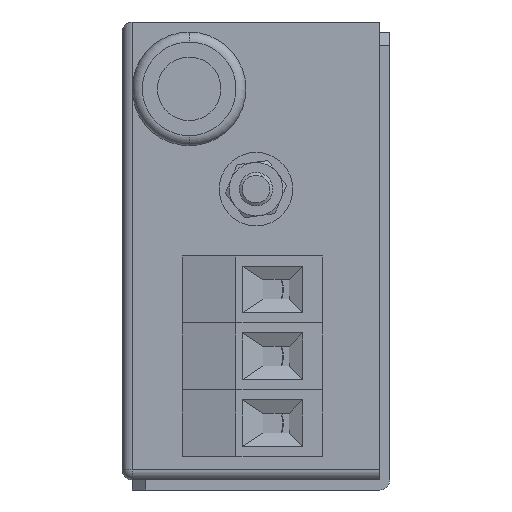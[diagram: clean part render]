
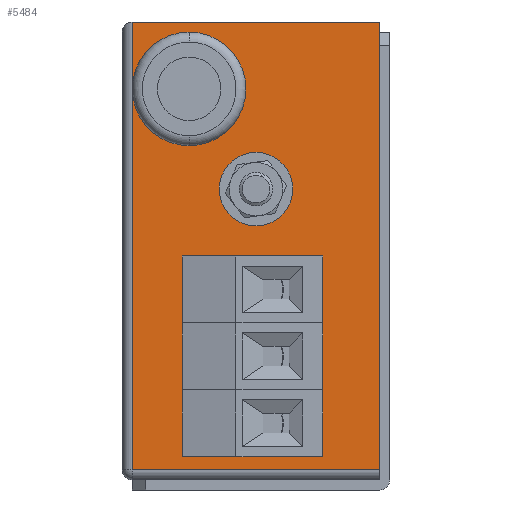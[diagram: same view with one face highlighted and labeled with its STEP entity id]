
A CAD part, left-side view. The second image highlights one B-rep face of the part: STEP entity #5484.
In plain terms, the highlighted planar face has unit normal (-1, 0, 0).
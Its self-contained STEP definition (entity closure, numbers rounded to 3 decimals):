
#70 = DIRECTION ( 'NONE',  ( 0., 0., 1. ) ) ;
#102 = DIRECTION ( 'NONE',  ( -1., 0., 0. ) ) ;
#148 = EDGE_LOOP ( 'NONE', ( #2461, #2319, #1413, #2735, #8396 ) ) ;
#200 = EDGE_LOOP ( 'NONE', ( #8491, #8695 ) ) ;
#344 = DIRECTION ( 'NONE',  ( -1., 0., 0. ) ) ;
#547 = CARTESIAN_POINT ( 'NONE',  ( 23., 30., -2.25 ) ) ;
#578 = DIRECTION ( 'NONE',  ( 0., 0., 1. ) ) ;
#613 = CARTESIAN_POINT ( 'NONE',  ( 23., 20., -34.4 ) ) ;
#662 = FACE_BOUND ( 'NONE', #5867, .T. ) ;
#737 = EDGE_CURVE ( 'NONE', #7203, #7598, #4684, .T. ) ;
#761 = VERTEX_POINT ( 'NONE', #3679 ) ;
#802 = AXIS2_PLACEMENT_3D ( 'NONE', #9300, #344, #2537 ) ;
#820 = CIRCLE ( 'NONE', #4451, 2.5 ) ;
#866 = CARTESIAN_POINT ( 'NONE',  ( 23., 30., -8.5 ) ) ;
#898 = EDGE_CURVE ( 'NONE', #8376, #4473, #7753, .T. ) ;
#992 = FACE_BOUND ( 'NONE', #7151, .T. ) ;
#1083 = CIRCLE ( 'NONE', #5175, 4.1 ) ;
#1119 = CIRCLE ( 'NONE', #3046, 4.1 ) ;
#1309 = DIRECTION ( 'NONE',  ( 0., 0., 1. ) ) ;
#1402 = DIRECTION ( 'NONE',  ( 0., 0., 1. ) ) ;
#1413 = ORIENTED_EDGE ( 'NONE', *, *, #3778, .T. ) ;
#1491 = VERTEX_POINT ( 'NONE', #2798 ) ;
#1499 = DIRECTION ( 'NONE',  ( -1., 0., 0. ) ) ;
#1611 = LINE ( 'NONE', #1956, #8524 ) ;
#1681 = DIRECTION ( 'NONE',  ( 0., 0., 1. ) ) ;
#1888 = ORIENTED_EDGE ( 'NONE', *, *, #3693, .F. ) ;
#1908 = CARTESIAN_POINT ( 'NONE',  ( 23., 30., -14.75 ) ) ;
#1956 = CARTESIAN_POINT ( 'NONE',  ( 23., 40., -65.5 ) ) ;
#2144 = VECTOR ( 'NONE', #5631, 1000. ) ;
#2148 = AXIS2_PLACEMENT_3D ( 'NONE', #8843, #5747, #578 ) ;
#2200 = VECTOR ( 'NONE', #70, 1000. ) ;
#2319 = ORIENTED_EDGE ( 'NONE', *, *, #7357, .T. ) ;
#2414 = VERTEX_POINT ( 'NONE', #613 ) ;
#2452 = AXIS2_PLACEMENT_3D ( 'NONE', #4355, #5186, #6647 ) ;
#2461 = ORIENTED_EDGE ( 'NONE', *, *, #8888, .F. ) ;
#2537 = DIRECTION ( 'NONE',  ( 0., 0., 1. ) ) ;
#2539 = CARTESIAN_POINT ( 'NONE',  ( 23., 40., 1.5 ) ) ;
#2565 = CARTESIAN_POINT ( 'NONE',  ( 23., 20., -54.4 ) ) ;
#2569 = VERTEX_POINT ( 'NONE', #1908 ) ;
#2735 = ORIENTED_EDGE ( 'NONE', *, *, #3458, .T. ) ;
#2762 = EDGE_CURVE ( 'NONE', #7598, #7203, #1083, .T. ) ;
#2766 = CIRCLE ( 'NONE', #802, 2.5 ) ;
#2798 = CARTESIAN_POINT ( 'NONE',  ( 23., 1.5, -65.5 ) ) ;
#2997 = DIRECTION ( 'NONE',  ( 0., 0., 1. ) ) ;
#3046 = AXIS2_PLACEMENT_3D ( 'NONE', #6649, #8942, #2997 ) ;
#3452 = CARTESIAN_POINT ( 'NONE',  ( 23., 40., 1.5 ) ) ;
#3458 = EDGE_CURVE ( 'NONE', #1491, #8376, #6068, .T. ) ;
#3611 = DIRECTION ( 'NONE',  ( -1., 0., 0. ) ) ;
#3654 = CARTESIAN_POINT ( 'NONE',  ( 23., 20., -38.5 ) ) ;
#3679 = CARTESIAN_POINT ( 'NONE',  ( 23., 20., -21. ) ) ;
#3693 = EDGE_CURVE ( 'NONE', #4223, #761, #2766, .T. ) ;
#3778 = EDGE_CURVE ( 'NONE', #4033, #1491, #1611, .T. ) ;
#3779 = CARTESIAN_POINT ( 'NONE',  ( 23., 38.5, 1.5 ) ) ;
#3831 = CARTESIAN_POINT ( 'NONE',  ( 23., 38.5, 1.5 ) ) ;
#3912 = EDGE_CURVE ( 'NONE', #2414, #4838, #6659, .T. ) ;
#4033 = VERTEX_POINT ( 'NONE', #8191 ) ;
#4085 = VERTEX_POINT ( 'NONE', #3831 ) ;
#4135 = CIRCLE ( 'NONE', #4439, 6.25 ) ;
#4223 = VERTEX_POINT ( 'NONE', #8610 ) ;
#4302 = VERTEX_POINT ( 'NONE', #2565 ) ;
#4320 = CARTESIAN_POINT ( 'NONE',  ( 23., 1.5, 1.5 ) ) ;
#4355 = CARTESIAN_POINT ( 'NONE',  ( 23., 20., -48.5 ) ) ;
#4398 = AXIS2_PLACEMENT_3D ( 'NONE', #8882, #3611, #6673 ) ;
#4439 = AXIS2_PLACEMENT_3D ( 'NONE', #866, #102, #5428 ) ;
#4451 = AXIS2_PLACEMENT_3D ( 'NONE', #6176, #5377, #1681 ) ;
#4473 = VERTEX_POINT ( 'NONE', #4320 ) ;
#4503 = LINE ( 'NONE', #3779, #7098 ) ;
#4550 = EDGE_CURVE ( 'NONE', #4838, #2414, #1119, .T. ) ;
#4650 = CARTESIAN_POINT ( 'NONE',  ( 23., 1.5, 1.5 ) ) ;
#4684 = CIRCLE ( 'NONE', #2452, 4.1 ) ;
#4813 = CARTESIAN_POINT ( 'NONE',  ( 23., 20., -42.6 ) ) ;
#4838 = VERTEX_POINT ( 'NONE', #4813 ) ;
#5041 = ORIENTED_EDGE ( 'NONE', *, *, #5384, .F. ) ;
#5097 = FACE_OUTER_BOUND ( 'NONE', #148, .T. ) ;
#5169 = CIRCLE ( 'NONE', #7565, 4.1 ) ;
#5175 = AXIS2_PLACEMENT_3D ( 'NONE', #6564, #8723, #1309 ) ;
#5186 = DIRECTION ( 'NONE',  ( -1., 0., 0. ) ) ;
#5365 = CARTESIAN_POINT ( 'NONE',  ( 23., 20., -62.6 ) ) ;
#5377 = DIRECTION ( 'NONE',  ( -1., 0., 0. ) ) ;
#5384 = EDGE_CURVE ( 'NONE', #9271, #2569, #4135, .T. ) ;
#5428 = DIRECTION ( 'NONE',  ( 0., 0., 1. ) ) ;
#5484 = ADVANCED_FACE ( 'NONE', ( #662, #9426, #6977, #992, #8738, #5097 ), #6261, .F. ) ;
#5517 = ORIENTED_EDGE ( 'NONE', *, *, #9653, .F. ) ;
#5572 = DIRECTION ( 'NONE',  ( 0., 0., 1. ) ) ;
#5631 = DIRECTION ( 'NONE',  ( 0., -1., 0. ) ) ;
#5636 = AXIS2_PLACEMENT_3D ( 'NONE', #2539, #7110, #6398 ) ;
#5648 = CARTESIAN_POINT ( 'NONE',  ( 23., 20., -52.6 ) ) ;
#5747 = DIRECTION ( 'NONE',  ( -1., 0., 0. ) ) ;
#5867 = EDGE_LOOP ( 'NONE', ( #5517, #7932 ) ) ;
#5913 = CIRCLE ( 'NONE', #2148, 4.1 ) ;
#6068 = LINE ( 'NONE', #7546, #2200 ) ;
#6070 = EDGE_CURVE ( 'NONE', #761, #4223, #820, .T. ) ;
#6124 = DIRECTION ( 'NONE',  ( 0., 0., -1. ) ) ;
#6139 = ORIENTED_EDGE ( 'NONE', *, *, #2762, .F. ) ;
#6176 = CARTESIAN_POINT ( 'NONE',  ( 23., 20., -23.5 ) ) ;
#6261 = PLANE ( 'NONE',  #5636 ) ;
#6353 = EDGE_LOOP ( 'NONE', ( #5041, #6947 ) ) ;
#6380 = DIRECTION ( 'NONE',  ( -1., 0., 0. ) ) ;
#6398 = DIRECTION ( 'NONE',  ( 0., 0., -1. ) ) ;
#6399 = AXIS2_PLACEMENT_3D ( 'NONE', #3654, #1499, #1402 ) ;
#6564 = CARTESIAN_POINT ( 'NONE',  ( 23., 20., -48.5 ) ) ;
#6647 = DIRECTION ( 'NONE',  ( 0., 0., 1. ) ) ;
#6649 = CARTESIAN_POINT ( 'NONE',  ( 23., 20., -38.5 ) ) ;
#6659 = CIRCLE ( 'NONE', #6399, 4.1 ) ;
#6673 = DIRECTION ( 'NONE',  ( 0., 0., 1. ) ) ;
#6707 = VERTEX_POINT ( 'NONE', #5365 ) ;
#6947 = ORIENTED_EDGE ( 'NONE', *, *, #9239, .F. ) ;
#6977 = FACE_BOUND ( 'NONE', #200, .T. ) ;
#7028 = CARTESIAN_POINT ( 'NONE',  ( 23., 20., -58.5 ) ) ;
#7098 = VECTOR ( 'NONE', #6124, 1000. ) ;
#7110 = DIRECTION ( 'NONE',  ( 1., 0., 0. ) ) ;
#7151 = EDGE_LOOP ( 'NONE', ( #8027, #1888 ) ) ;
#7203 = VERTEX_POINT ( 'NONE', #9596 ) ;
#7297 = VECTOR ( 'NONE', #7778, 1000. ) ;
#7357 = EDGE_CURVE ( 'NONE', #4085, #4033, #4503, .T. ) ;
#7423 = CARTESIAN_POINT ( 'NONE',  ( 23., 1.5, 0. ) ) ;
#7546 = CARTESIAN_POINT ( 'NONE',  ( 23., 1.5, 1.5 ) ) ;
#7565 = AXIS2_PLACEMENT_3D ( 'NONE', #7028, #6380, #5572 ) ;
#7598 = VERTEX_POINT ( 'NONE', #5648 ) ;
#7732 = EDGE_CURVE ( 'NONE', #6707, #4302, #5913, .T. ) ;
#7753 = LINE ( 'NONE', #4650, #7297 ) ;
#7778 = DIRECTION ( 'NONE',  ( 0., 0., 1. ) ) ;
#7932 = ORIENTED_EDGE ( 'NONE', *, *, #7732, .F. ) ;
#8027 = ORIENTED_EDGE ( 'NONE', *, *, #6070, .F. ) ;
#8191 = CARTESIAN_POINT ( 'NONE',  ( 23., 38.5, -65.5 ) ) ;
#8211 = EDGE_LOOP ( 'NONE', ( #8321, #6139 ) ) ;
#8244 = CIRCLE ( 'NONE', #4398, 6.25 ) ;
#8321 = ORIENTED_EDGE ( 'NONE', *, *, #737, .F. ) ;
#8376 = VERTEX_POINT ( 'NONE', #7423 ) ;
#8396 = ORIENTED_EDGE ( 'NONE', *, *, #898, .T. ) ;
#8491 = ORIENTED_EDGE ( 'NONE', *, *, #3912, .F. ) ;
#8524 = VECTOR ( 'NONE', #8749, 1000. ) ;
#8610 = CARTESIAN_POINT ( 'NONE',  ( 23., 20., -26. ) ) ;
#8695 = ORIENTED_EDGE ( 'NONE', *, *, #4550, .F. ) ;
#8723 = DIRECTION ( 'NONE',  ( -1., 0., 0. ) ) ;
#8738 = FACE_BOUND ( 'NONE', #6353, .T. ) ;
#8749 = DIRECTION ( 'NONE',  ( 0., -1., 0. ) ) ;
#8837 = LINE ( 'NONE', #3452, #2144 ) ;
#8843 = CARTESIAN_POINT ( 'NONE',  ( 23., 20., -58.5 ) ) ;
#8882 = CARTESIAN_POINT ( 'NONE',  ( 23., 30., -8.5 ) ) ;
#8888 = EDGE_CURVE ( 'NONE', #4085, #4473, #8837, .T. ) ;
#8942 = DIRECTION ( 'NONE',  ( -1., 0., 0. ) ) ;
#9239 = EDGE_CURVE ( 'NONE', #2569, #9271, #8244, .T. ) ;
#9271 = VERTEX_POINT ( 'NONE', #547 ) ;
#9300 = CARTESIAN_POINT ( 'NONE',  ( 23., 20., -23.5 ) ) ;
#9426 = FACE_BOUND ( 'NONE', #8211, .T. ) ;
#9596 = CARTESIAN_POINT ( 'NONE',  ( 23., 20., -44.4 ) ) ;
#9653 = EDGE_CURVE ( 'NONE', #4302, #6707, #5169, .T. ) ;
